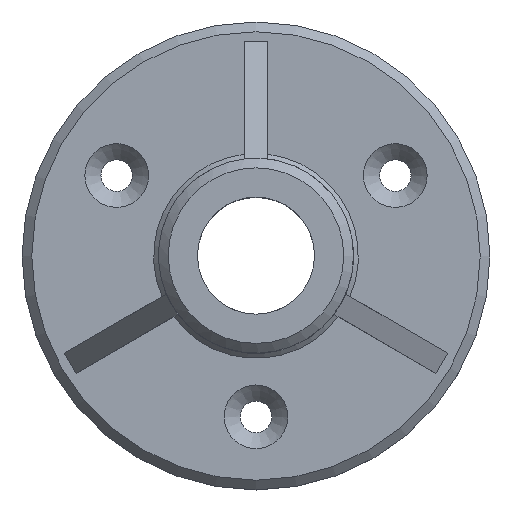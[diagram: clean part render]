
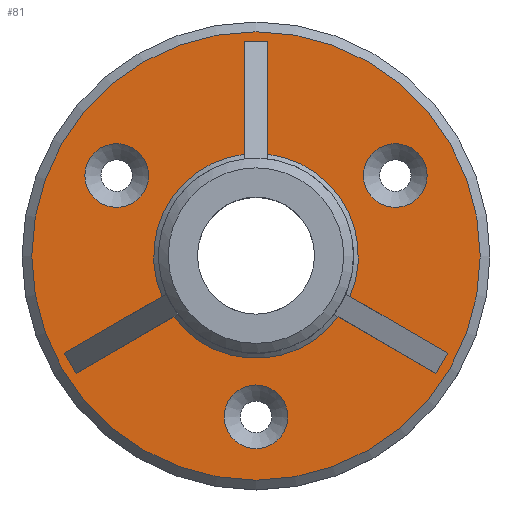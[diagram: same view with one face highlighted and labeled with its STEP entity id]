
A CAD part, top view. The second image highlights one B-rep face of the part: STEP entity #81.
In plain terms, the highlighted planar face has unit normal (0, 0, 1).
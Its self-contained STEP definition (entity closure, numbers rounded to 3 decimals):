
#66=PLANE('',#627);
#81=ADVANCED_FACE('',(#209,#210,#211,#212,#213),#66,.T.);
#134=LINE('',#890,#159);
#135=LINE('',#895,#160);
#136=LINE('',#897,#161);
#137=LINE('',#899,#162);
#138=LINE('',#903,#163);
#139=LINE('',#905,#164);
#140=LINE('',#907,#165);
#141=LINE('',#911,#166);
#142=LINE('',#913,#167);
#159=VECTOR('',#708,1.);
#160=VECTOR('',#711,1.);
#161=VECTOR('',#712,1.);
#162=VECTOR('',#713,1.);
#163=VECTOR('',#716,1.);
#164=VECTOR('',#717,1.);
#165=VECTOR('',#718,1.);
#166=VECTOR('',#721,1.);
#167=VECTOR('',#722,1.);
#182=CIRCLE('',#620,13.605);
#183=CIRCLE('',#621,13.605);
#184=CIRCLE('',#622,13.605);
#185=CIRCLE('',#623,43.75);
#186=CIRCLE('',#624,43.75);
#187=CIRCLE('',#625,43.75);
#188=CIRCLE('',#626,95.833);
#209=FACE_BOUND('',#257,.T.);
#210=FACE_BOUND('',#258,.T.);
#211=FACE_BOUND('',#259,.T.);
#212=FACE_BOUND('',#260,.T.);
#213=FACE_BOUND('',#261,.T.);
#257=EDGE_LOOP('',(#333));
#258=EDGE_LOOP('',(#334));
#259=EDGE_LOOP('',(#335));
#260=EDGE_LOOP('',(#336,#337,#338,#339,#340,#341,#342,#343,#344,#345,#346,
#347));
#261=EDGE_LOOP('',(#348));
#333=ORIENTED_EDGE('',*,*,#535,.T.);
#334=ORIENTED_EDGE('',*,*,#536,.T.);
#335=ORIENTED_EDGE('',*,*,#537,.T.);
#336=ORIENTED_EDGE('',*,*,#538,.F.);
#337=ORIENTED_EDGE('',*,*,#539,.T.);
#338=ORIENTED_EDGE('',*,*,#540,.T.);
#339=ORIENTED_EDGE('',*,*,#541,.F.);
#340=ORIENTED_EDGE('',*,*,#542,.F.);
#341=ORIENTED_EDGE('',*,*,#543,.T.);
#342=ORIENTED_EDGE('',*,*,#544,.T.);
#343=ORIENTED_EDGE('',*,*,#545,.F.);
#344=ORIENTED_EDGE('',*,*,#546,.F.);
#345=ORIENTED_EDGE('',*,*,#547,.T.);
#346=ORIENTED_EDGE('',*,*,#548,.T.);
#347=ORIENTED_EDGE('',*,*,#549,.T.);
#348=ORIENTED_EDGE('',*,*,#550,.T.);
#479=VERTEX_POINT('',#885);
#480=VERTEX_POINT('',#887);
#481=VERTEX_POINT('',#889);
#482=VERTEX_POINT('',#891);
#483=VERTEX_POINT('',#892);
#484=VERTEX_POINT('',#894);
#485=VERTEX_POINT('',#896);
#486=VERTEX_POINT('',#898);
#487=VERTEX_POINT('',#900);
#488=VERTEX_POINT('',#902);
#489=VERTEX_POINT('',#904);
#490=VERTEX_POINT('',#906);
#491=VERTEX_POINT('',#908);
#492=VERTEX_POINT('',#910);
#493=VERTEX_POINT('',#912);
#494=VERTEX_POINT('',#915);
#535=EDGE_CURVE('',#479,#479,#182,.T.);
#536=EDGE_CURVE('',#480,#480,#183,.T.);
#537=EDGE_CURVE('',#481,#481,#184,.T.);
#538=EDGE_CURVE('',#482,#483,#134,.T.);
#539=EDGE_CURVE('',#482,#484,#185,.T.);
#540=EDGE_CURVE('',#484,#485,#135,.T.);
#541=EDGE_CURVE('',#486,#485,#136,.T.);
#542=EDGE_CURVE('',#487,#486,#137,.T.);
#543=EDGE_CURVE('',#487,#488,#186,.T.);
#544=EDGE_CURVE('',#488,#489,#138,.T.);
#545=EDGE_CURVE('',#490,#489,#139,.T.);
#546=EDGE_CURVE('',#491,#490,#140,.T.);
#547=EDGE_CURVE('',#491,#492,#187,.T.);
#548=EDGE_CURVE('',#492,#493,#141,.T.);
#549=EDGE_CURVE('',#493,#483,#142,.T.);
#550=EDGE_CURVE('',#494,#494,#188,.T.);
#620=AXIS2_PLACEMENT_3D('',#884,#702,#703);
#621=AXIS2_PLACEMENT_3D('',#886,#704,#705);
#622=AXIS2_PLACEMENT_3D('',#888,#706,#707);
#623=AXIS2_PLACEMENT_3D('',#893,#709,#710);
#624=AXIS2_PLACEMENT_3D('',#901,#714,#715);
#625=AXIS2_PLACEMENT_3D('',#909,#719,#720);
#626=AXIS2_PLACEMENT_3D('',#914,#723,#724);
#627=AXIS2_PLACEMENT_3D('',#916,#725,#726);
#702=DIRECTION('',(0.,0.,-1.));
#703=DIRECTION('',(-1.,0.,0.));
#704=DIRECTION('',(0.,0.,-1.));
#705=DIRECTION('',(-1.,0.,0.));
#706=DIRECTION('',(0.,0.,-1.));
#707=DIRECTION('',(-1.,0.,0.));
#708=DIRECTION('',(0.,1.,0.));
#709=DIRECTION('',(0.,0.,-1.));
#710=DIRECTION('',(1.,0.,0.));
#711=DIRECTION('',(0.866,-0.5,0.));
#712=DIRECTION('',(0.5,0.866,0.));
#713=DIRECTION('',(0.866,-0.5,0.));
#714=DIRECTION('',(0.,0.,-1.));
#715=DIRECTION('',(1.,0.,0.));
#716=DIRECTION('',(-0.866,-0.5,0.));
#717=DIRECTION('',(0.5,-0.866,0.));
#718=DIRECTION('',(-0.866,-0.5,0.));
#719=DIRECTION('',(0.,0.,-1.));
#720=DIRECTION('',(1.,0.,0.));
#721=DIRECTION('',(0.,1.,0.));
#722=DIRECTION('',(1.,0.,0.));
#723=DIRECTION('',(0.,0.,1.));
#724=DIRECTION('',(1.,0.,0.));
#725=DIRECTION('',(0.,0.,1.));
#726=DIRECTION('',(1.,0.,0.));
#884=CARTESIAN_POINT('',(0.,-68.75,16.667));
#885=CARTESIAN_POINT('',(-13.605,-68.75,16.667));
#886=CARTESIAN_POINT('',(59.539,34.375,16.667));
#887=CARTESIAN_POINT('',(45.934,34.375,16.667));
#888=CARTESIAN_POINT('',(-59.539,34.375,16.667));
#889=CARTESIAN_POINT('',(-73.144,34.375,16.667));
#890=CARTESIAN_POINT('',(5.,33.333,16.667));
#891=CARTESIAN_POINT('',(5.,43.463,16.667));
#892=CARTESIAN_POINT('',(5.,91.667,16.667));
#893=CARTESIAN_POINT('',(0.,0.,16.667));
#894=CARTESIAN_POINT('',(40.14,-17.402,16.667));
#895=CARTESIAN_POINT('',(31.368,-12.337,16.667));
#896=CARTESIAN_POINT('',(81.886,-41.503,16.667));
#897=CARTESIAN_POINT('',(76.886,-50.163,16.667));
#898=CARTESIAN_POINT('',(76.886,-50.163,16.667));
#899=CARTESIAN_POINT('',(26.368,-20.997,16.667));
#900=CARTESIAN_POINT('',(35.14,-26.062,16.667));
#901=CARTESIAN_POINT('',(0.,0.,16.667));
#902=CARTESIAN_POINT('',(-35.14,-26.062,16.667));
#903=CARTESIAN_POINT('',(-26.368,-20.997,16.667));
#904=CARTESIAN_POINT('',(-76.886,-50.163,16.667));
#905=CARTESIAN_POINT('',(-81.886,-41.503,16.667));
#906=CARTESIAN_POINT('',(-81.886,-41.503,16.667));
#907=CARTESIAN_POINT('',(-31.368,-12.337,16.667));
#908=CARTESIAN_POINT('',(-40.14,-17.402,16.667));
#909=CARTESIAN_POINT('',(0.,0.,16.667));
#910=CARTESIAN_POINT('',(-5.,43.463,16.667));
#911=CARTESIAN_POINT('',(-5.,33.333,16.667));
#912=CARTESIAN_POINT('',(-5.,91.667,16.667));
#913=CARTESIAN_POINT('',(5.,91.667,16.667));
#914=CARTESIAN_POINT('',(0.,0.,16.667));
#915=CARTESIAN_POINT('',(95.833,0.,16.667));
#916=CARTESIAN_POINT('',(100.,0.,16.667));
